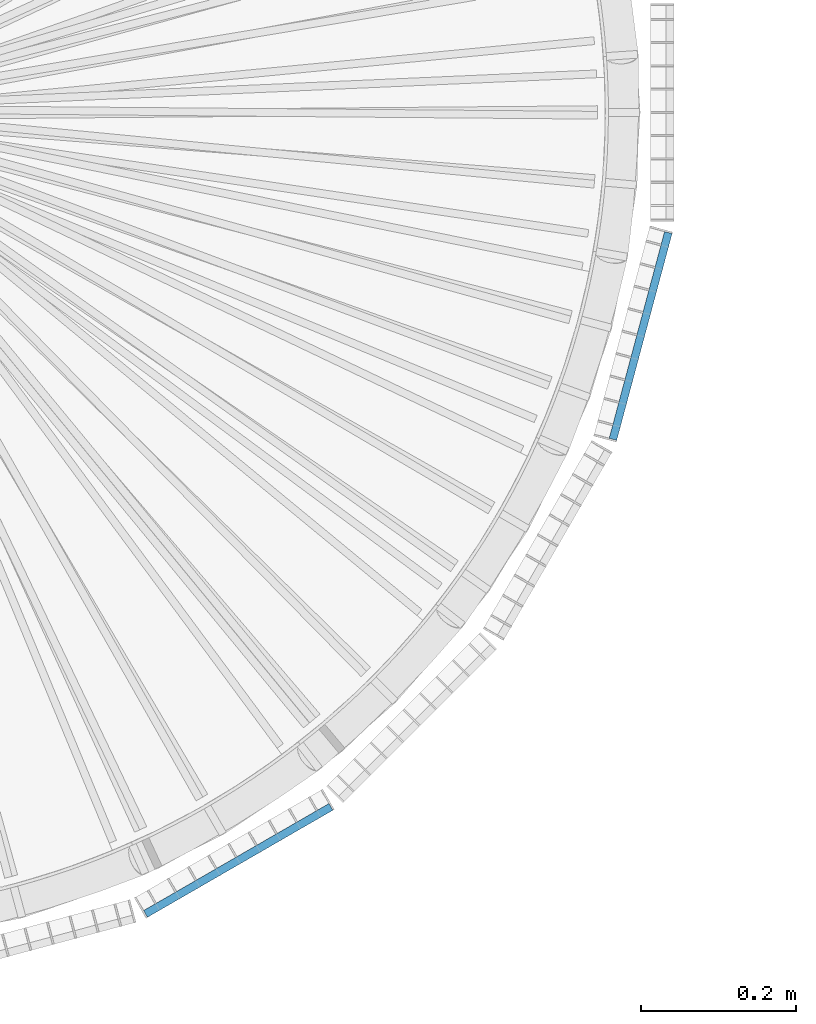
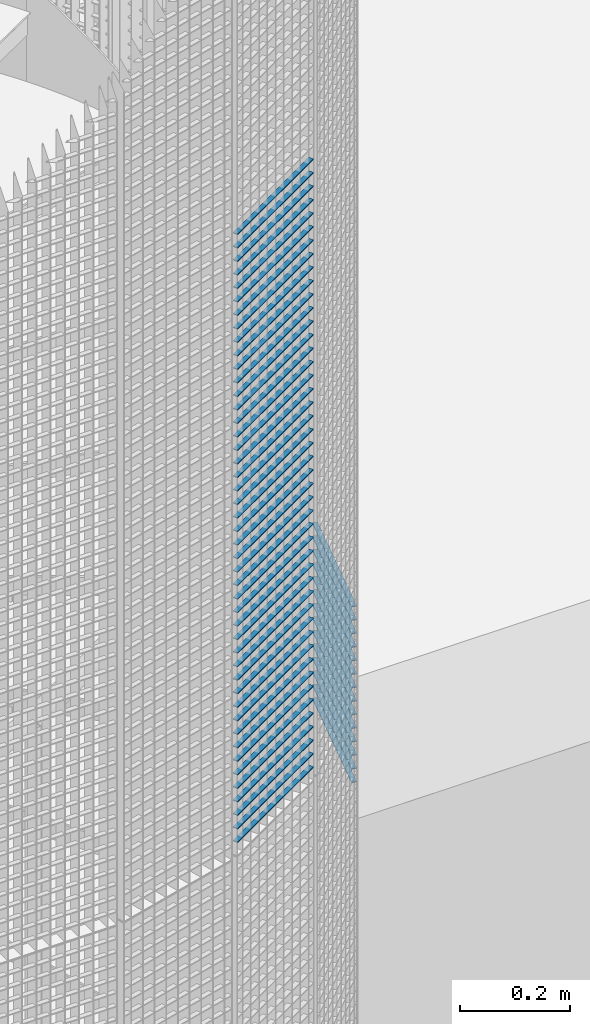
# One storey, part 239 of 1148: 60 beams, 2 elements without a shape of their own.
"""IFC2X3 building model written with IfcOpenShell, lengths in millimetres."""

from ifc_helpers import new_model, si_unit, frame, origin_with_axes, origin_2d_with_axis, place, context, subcontext, project, spatial, rectangle, extrude, material, type_object, element, aggregate, save


model = new_model("IFC2X3")

# Units and contexts
model_context = context("Model", 3, precision=1e-05, world=origin_with_axes())
body_context = subcontext(model_context, "Body", "Model", "MODEL_VIEW")
ifc_project = project(units=[si_unit("LENGTHUNIT", "METRE", prefix="MILLI"), si_unit("AREAUNIT", "SQUARE_METRE"), si_unit("VOLUMEUNIT", "CUBIC_METRE"), si_unit("MASSUNIT", "GRAM", prefix="KILO"), si_unit("TIMEUNIT", "SECOND"), si_unit("PLANEANGLEUNIT", "RADIAN"), si_unit("SOLIDANGLEUNIT", "STERADIAN"), si_unit("THERMODYNAMICTEMPERATUREUNIT", "DEGREE_CELSIUS"), si_unit("LUMINOUSINTENSITYUNIT", "LUMEN")], contexts=[model_context])

# Site, building, storey
site_placement = place(None, origin_with_axes())
site = spatial("IfcSite", under=ifc_project, at=site_placement, Name="Undefined", CompositionType="ELEMENT")
building_placement = place(site_placement, origin_with_axes())
building = spatial("IfcBuilding", under=site, at=building_placement, Name="Undefined", CompositionType="ELEMENT")
storey_placement = place(building_placement, origin_with_axes())
storey = spatial("IfcBuildingStorey", under=building, at=storey_placement, Name="Undefined", CompositionType="ELEMENT", Elevation=0.0)

# Assembly, beams
assembly_1_placement = place(storey_placement, origin_with_axes())
assembly_1 = element("IfcElementAssembly", 1, at=assembly_1_placement, inside=storey, Name="BORDURE", AssemblyPlace="NOTDEFINED", PredefinedType="NOTDEFINED")
ifc_material = material(Name="STEEL/S235JR")
beam_type = type_object("IfcBeamType", Name="PL2*10", PredefinedType="NOTDEFINED")
beam_1_placement = place(assembly_1_placement, frame((437.231955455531, -1033.29996828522, 10380.0), z_axis=(0.499999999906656, -0.866025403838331, 0.0), x_axis=(0.866025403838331, 0.499999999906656, 0.0)))
beam_1 = element("IfcBeam", 2, at=beam_1_placement, type_object=beam_type, material=ifc_material, Name="ENTRETOISE", context=body_context, shape_type="SweptSolid", body=[
    extrude(rectangle(XDim=2.0, YDim=10.0, at=origin_2d_with_axis()), frame((275.999999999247, 9.09494701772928e-13, 1.53210777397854e-14), z_axis=(-1.0, 0.0, 0.0), x_axis=(0.0, -1.0, 0.0)), (0.0, 0.0, 1.0), 276.0),
])
beam_2_placement = place(assembly_1_placement, frame((437.231955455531, -1033.29996828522, 10350.0), z_axis=(0.499999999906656, -0.866025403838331, 0.0), x_axis=(0.866025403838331, 0.499999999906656, 0.0)))
beam_2 = element("IfcBeam", 3, at=beam_2_placement, type_object=beam_type, material=ifc_material, Name="ENTRETOISE", context=body_context, shape_type="SweptSolid", body=[
    extrude(rectangle(XDim=2.0, YDim=10.0, at=origin_2d_with_axis()), frame((275.999999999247, 9.09494701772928e-13, 1.53210777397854e-14), z_axis=(-1.0, 0.0, 0.0), x_axis=(0.0, -1.0, 0.0)), (0.0, 0.0, 1.0), 276.0),
])
beam_3_placement = place(assembly_1_placement, frame((437.231955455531, -1033.29996828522, 10320.0), z_axis=(0.499999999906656, -0.866025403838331, 0.0), x_axis=(0.866025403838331, 0.499999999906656, 0.0)))
beam_3 = element("IfcBeam", 4, at=beam_3_placement, type_object=beam_type, material=ifc_material, Name="ENTRETOISE", context=body_context, shape_type="SweptSolid", body=[
    extrude(rectangle(XDim=2.0, YDim=10.0, at=origin_2d_with_axis()), frame((275.999999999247, 9.09494701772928e-13, 1.53210777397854e-14), z_axis=(-1.0, 0.0, 0.0), x_axis=(0.0, -1.0, 0.0)), (0.0, 0.0, 1.0), 276.0),
])
beam_4_placement = place(assembly_1_placement, frame((437.231955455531, -1033.29996828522, 10290.0), z_axis=(0.499999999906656, -0.866025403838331, 0.0), x_axis=(0.866025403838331, 0.499999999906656, 0.0)))
beam_4 = element("IfcBeam", 5, at=beam_4_placement, type_object=beam_type, material=ifc_material, Name="ENTRETOISE", context=body_context, shape_type="SweptSolid", body=[
    extrude(rectangle(XDim=2.0, YDim=10.0, at=origin_2d_with_axis()), frame((275.999999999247, 9.09494701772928e-13, 1.53210777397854e-14), z_axis=(-1.0, 0.0, 0.0), x_axis=(0.0, -1.0, 0.0)), (0.0, 0.0, 1.0), 276.0),
])
beam_5_placement = place(assembly_1_placement, frame((437.231955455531, -1033.29996828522, 10260.0), z_axis=(0.499999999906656, -0.866025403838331, 0.0), x_axis=(0.866025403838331, 0.499999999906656, 0.0)))
beam_5 = element("IfcBeam", 6, at=beam_5_placement, type_object=beam_type, material=ifc_material, Name="ENTRETOISE", context=body_context, shape_type="SweptSolid", body=[
    extrude(rectangle(XDim=2.0, YDim=10.0, at=origin_2d_with_axis()), frame((275.999999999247, 9.09494701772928e-13, 1.53210777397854e-14), z_axis=(-1.0, 0.0, 0.0), x_axis=(0.0, -1.0, 0.0)), (0.0, 0.0, 1.0), 276.0),
])
beam_6_placement = place(assembly_1_placement, frame((437.231955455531, -1033.29996828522, 10230.0), z_axis=(0.499999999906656, -0.866025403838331, 0.0), x_axis=(0.866025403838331, 0.499999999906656, 0.0)))
beam_6 = element("IfcBeam", 7, at=beam_6_placement, type_object=beam_type, material=ifc_material, Name="ENTRETOISE", context=body_context, shape_type="SweptSolid", body=[
    extrude(rectangle(XDim=2.0, YDim=10.0, at=origin_2d_with_axis()), frame((275.999999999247, 9.09494701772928e-13, 1.53210777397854e-14), z_axis=(-1.0, 0.0, 0.0), x_axis=(0.0, -1.0, 0.0)), (0.0, 0.0, 1.0), 276.0),
])
beam_7_placement = place(assembly_1_placement, frame((437.231955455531, -1033.29996828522, 10200.0), z_axis=(0.499999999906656, -0.866025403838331, 0.0), x_axis=(0.866025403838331, 0.499999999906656, 0.0)))
beam_7 = element("IfcBeam", 8, at=beam_7_placement, type_object=beam_type, material=ifc_material, Name="ENTRETOISE", context=body_context, shape_type="SweptSolid", body=[
    extrude(rectangle(XDim=2.0, YDim=10.0, at=origin_2d_with_axis()), frame((275.999999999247, 9.09494701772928e-13, 1.53210777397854e-14), z_axis=(-1.0, 0.0, 0.0), x_axis=(0.0, -1.0, 0.0)), (0.0, 0.0, 1.0), 276.0),
])
beam_8_placement = place(assembly_1_placement, frame((437.231955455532, -1033.29996828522, 10170.0), z_axis=(0.499999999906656, -0.866025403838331, 0.0), x_axis=(0.866025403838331, 0.499999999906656, 0.0)))
beam_8 = element("IfcBeam", 9, at=beam_8_placement, type_object=beam_type, material=ifc_material, Name="ENTRETOISE", context=body_context, shape_type="SweptSolid", body=[
    extrude(rectangle(XDim=2.0, YDim=10.0, at=origin_2d_with_axis()), frame((275.999999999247, 9.09494701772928e-13, 1.53210777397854e-14), z_axis=(-1.0, 0.0, 0.0), x_axis=(0.0, -1.0, 0.0)), (0.0, 0.0, 1.0), 276.0),
])
beam_9_placement = place(assembly_1_placement, frame((437.231955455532, -1033.29996828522, 10140.0), z_axis=(0.499999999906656, -0.866025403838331, 0.0), x_axis=(0.866025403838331, 0.499999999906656, 0.0)))
beam_9 = element("IfcBeam", 10, at=beam_9_placement, type_object=beam_type, material=ifc_material, Name="ENTRETOISE", context=body_context, shape_type="SweptSolid", body=[
    extrude(rectangle(XDim=2.0, YDim=10.0, at=origin_2d_with_axis()), frame((275.999999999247, 9.09494701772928e-13, 1.53210777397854e-14), z_axis=(-1.0, 0.0, 0.0), x_axis=(0.0, -1.0, 0.0)), (0.0, 0.0, 1.0), 276.0),
])
beam_10_placement = place(assembly_1_placement, frame((437.231955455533, -1033.29996828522, 9720.0), z_axis=(0.499999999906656, -0.866025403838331, 0.0), x_axis=(0.866025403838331, 0.499999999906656, 0.0)))
beam_10 = element("IfcBeam", 11, at=beam_10_placement, type_object=beam_type, material=ifc_material, Name="ENTRETOISE", context=body_context, shape_type="SweptSolid", body=[
    extrude(rectangle(XDim=2.0, YDim=10.0, at=origin_2d_with_axis()), frame((275.999999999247, 9.09494701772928e-13, 1.53210777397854e-14), z_axis=(-1.0, 0.0, 0.0), x_axis=(0.0, -1.0, 0.0)), (0.0, 0.0, 1.0), 276.0),
])
beam_11_placement = place(assembly_1_placement, frame((437.231955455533, -1033.29996828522, 9690.0), z_axis=(0.499999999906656, -0.866025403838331, 0.0), x_axis=(0.866025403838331, 0.499999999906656, 0.0)))
beam_11 = element("IfcBeam", 12, at=beam_11_placement, type_object=beam_type, material=ifc_material, Name="ENTRETOISE", context=body_context, shape_type="SweptSolid", body=[
    extrude(rectangle(XDim=2.0, YDim=10.0, at=origin_2d_with_axis()), frame((275.999999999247, 9.09494701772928e-13, 1.53210777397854e-14), z_axis=(-1.0, 0.0, 0.0), x_axis=(0.0, -1.0, 0.0)), (0.0, 0.0, 1.0), 276.0),
])
beam_12_placement = place(assembly_1_placement, frame((437.231955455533, -1033.29996828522, 9750.0), z_axis=(0.499999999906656, -0.866025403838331, 0.0), x_axis=(0.866025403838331, 0.499999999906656, 0.0)))
beam_12 = element("IfcBeam", 13, at=beam_12_placement, type_object=beam_type, material=ifc_material, Name="ENTRETOISE", context=body_context, shape_type="SweptSolid", body=[
    extrude(rectangle(XDim=2.0, YDim=10.0, at=origin_2d_with_axis()), frame((275.999999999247, 9.09494701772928e-13, 1.53210777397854e-14), z_axis=(-1.0, 0.0, 0.0), x_axis=(0.0, -1.0, 0.0)), (0.0, 0.0, 1.0), 276.0),
])
beam_13_placement = place(assembly_1_placement, frame((437.231955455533, -1033.29996828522, 9660.0), z_axis=(0.499999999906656, -0.866025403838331, 0.0), x_axis=(0.866025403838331, 0.499999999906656, 0.0)))
beam_13 = element("IfcBeam", 14, at=beam_13_placement, type_object=beam_type, material=ifc_material, Name="ENTRETOISE", context=body_context, shape_type="SweptSolid", body=[
    extrude(rectangle(XDim=2.0, YDim=10.0, at=origin_2d_with_axis()), frame((275.999999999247, 9.09494701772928e-13, 1.53210777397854e-14), z_axis=(-1.0, 0.0, 0.0), x_axis=(0.0, -1.0, 0.0)), (0.0, 0.0, 1.0), 276.0),
])
beam_14_placement = place(assembly_1_placement, frame((437.231955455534, -1033.29996828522, 9630.0), z_axis=(0.499999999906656, -0.866025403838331, 0.0), x_axis=(0.866025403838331, 0.499999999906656, 0.0)))
beam_14 = element("IfcBeam", 15, at=beam_14_placement, type_object=beam_type, material=ifc_material, Name="ENTRETOISE", context=body_context, shape_type="SweptSolid", body=[
    extrude(rectangle(XDim=2.0, YDim=10.0, at=origin_2d_with_axis()), frame((275.999999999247, 9.09494701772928e-13, 1.53210777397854e-14), z_axis=(-1.0, 0.0, 0.0), x_axis=(0.0, -1.0, 0.0)), (0.0, 0.0, 1.0), 276.0),
])
beam_15_placement = place(assembly_1_placement, frame((437.231955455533, -1033.29996828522, 9780.0), z_axis=(0.499999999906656, -0.866025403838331, 0.0), x_axis=(0.866025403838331, 0.499999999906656, 0.0)))
beam_15 = element("IfcBeam", 16, at=beam_15_placement, type_object=beam_type, material=ifc_material, Name="ENTRETOISE", context=body_context, shape_type="SweptSolid", body=[
    extrude(rectangle(XDim=2.0, YDim=10.0, at=origin_2d_with_axis()), frame((275.999999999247, 9.09494701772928e-13, 1.53210777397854e-14), z_axis=(-1.0, 0.0, 0.0), x_axis=(0.0, -1.0, 0.0)), (0.0, 0.0, 1.0), 276.0),
])
beam_16_placement = place(assembly_1_placement, frame((437.231955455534, -1033.29996828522, 9600.0), z_axis=(0.499999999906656, -0.866025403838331, 0.0), x_axis=(0.866025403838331, 0.499999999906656, 0.0)))
beam_16 = element("IfcBeam", 17, at=beam_16_placement, type_object=beam_type, material=ifc_material, Name="ENTRETOISE", context=body_context, shape_type="SweptSolid", body=[
    extrude(rectangle(XDim=2.0, YDim=10.0, at=origin_2d_with_axis()), frame((275.999999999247, 9.09494701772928e-13, 1.53210777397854e-14), z_axis=(-1.0, 0.0, 0.0), x_axis=(0.0, -1.0, 0.0)), (0.0, 0.0, 1.0), 276.0),
])
beam_17_placement = place(assembly_1_placement, frame((437.231955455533, -1033.29996828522, 9810.0), z_axis=(0.499999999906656, -0.866025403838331, 0.0), x_axis=(0.866025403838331, 0.499999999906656, 0.0)))
beam_17 = element("IfcBeam", 18, at=beam_17_placement, type_object=beam_type, material=ifc_material, Name="ENTRETOISE", context=body_context, shape_type="SweptSolid", body=[
    extrude(rectangle(XDim=2.0, YDim=10.0, at=origin_2d_with_axis()), frame((275.999999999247, 9.09494701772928e-13, 1.53210777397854e-14), z_axis=(-1.0, 0.0, 0.0), x_axis=(0.0, -1.0, 0.0)), (0.0, 0.0, 1.0), 276.0),
])
beam_18_placement = place(assembly_1_placement, frame((437.231955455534, -1033.29996828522, 9570.0), z_axis=(0.499999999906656, -0.866025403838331, 0.0), x_axis=(0.866025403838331, 0.499999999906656, 0.0)))
beam_18 = element("IfcBeam", 19, at=beam_18_placement, type_object=beam_type, material=ifc_material, Name="ENTRETOISE", context=body_context, shape_type="SweptSolid", body=[
    extrude(rectangle(XDim=2.0, YDim=10.0, at=origin_2d_with_axis()), frame((275.999999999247, 9.09494701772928e-13, 1.53210777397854e-14), z_axis=(-1.0, 0.0, 0.0), x_axis=(0.0, -1.0, 0.0)), (0.0, 0.0, 1.0), 276.0),
])
beam_19_placement = place(assembly_1_placement, frame((437.231955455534, -1033.29996828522, 9540.0), z_axis=(0.499999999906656, -0.866025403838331, 0.0), x_axis=(0.866025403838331, 0.499999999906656, 0.0)))
beam_19 = element("IfcBeam", 20, at=beam_19_placement, type_object=beam_type, material=ifc_material, Name="ENTRETOISE", context=body_context, shape_type="SweptSolid", body=[
    extrude(rectangle(XDim=2.0, YDim=10.0, at=origin_2d_with_axis()), frame((275.999999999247, 9.09494701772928e-13, 1.53210777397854e-14), z_axis=(-1.0, 0.0, 0.0), x_axis=(0.0, -1.0, 0.0)), (0.0, 0.0, 1.0), 276.0),
])
beam_20_placement = place(assembly_1_placement, frame((437.231955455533, -1033.29996828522, 9840.0), z_axis=(0.499999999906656, -0.866025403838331, 0.0), x_axis=(0.866025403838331, 0.499999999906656, 0.0)))
beam_20 = element("IfcBeam", 21, at=beam_20_placement, type_object=beam_type, material=ifc_material, Name="ENTRETOISE", context=body_context, shape_type="SweptSolid", body=[
    extrude(rectangle(XDim=2.0, YDim=10.0, at=origin_2d_with_axis()), frame((275.999999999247, 9.09494701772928e-13, 1.53210777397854e-14), z_axis=(-1.0, 0.0, 0.0), x_axis=(0.0, -1.0, 0.0)), (0.0, 0.0, 1.0), 276.0),
])
beam_21_placement = place(assembly_1_placement, frame((437.231955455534, -1033.29996828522, 9510.0), z_axis=(0.499999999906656, -0.866025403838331, 0.0), x_axis=(0.866025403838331, 0.499999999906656, 0.0)))
beam_21 = element("IfcBeam", 22, at=beam_21_placement, type_object=beam_type, material=ifc_material, Name="ENTRETOISE", context=body_context, shape_type="SweptSolid", body=[
    extrude(rectangle(XDim=2.0, YDim=10.0, at=origin_2d_with_axis()), frame((275.999999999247, 9.09494701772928e-13, 1.53210777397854e-14), z_axis=(-1.0, 0.0, 0.0), x_axis=(0.0, -1.0, 0.0)), (0.0, 0.0, 1.0), 276.0),
])
beam_22_placement = place(assembly_1_placement, frame((437.231955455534, -1033.29996828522, 9480.0), z_axis=(0.499999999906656, -0.866025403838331, 0.0), x_axis=(0.866025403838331, 0.499999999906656, 0.0)))
beam_22 = element("IfcBeam", 23, at=beam_22_placement, type_object=beam_type, material=ifc_material, Name="ENTRETOISE", context=body_context, shape_type="SweptSolid", body=[
    extrude(rectangle(XDim=2.0, YDim=10.0, at=origin_2d_with_axis()), frame((275.999999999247, 9.09494701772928e-13, 1.53210777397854e-14), z_axis=(-1.0, 0.0, 0.0), x_axis=(0.0, -1.0, 0.0)), (0.0, 0.0, 1.0), 276.0),
])
beam_23_placement = place(assembly_1_placement, frame((437.231955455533, -1033.29996828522, 9870.0), z_axis=(0.499999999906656, -0.866025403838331, 0.0), x_axis=(0.866025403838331, 0.499999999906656, 0.0)))
beam_23 = element("IfcBeam", 24, at=beam_23_placement, type_object=beam_type, material=ifc_material, Name="ENTRETOISE", context=body_context, shape_type="SweptSolid", body=[
    extrude(rectangle(XDim=2.0, YDim=10.0, at=origin_2d_with_axis()), frame((275.999999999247, 9.09494701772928e-13, 1.53210777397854e-14), z_axis=(-1.0, 0.0, 0.0), x_axis=(0.0, -1.0, 0.0)), (0.0, 0.0, 1.0), 276.0),
])
beam_24_placement = place(assembly_1_placement, frame((437.231955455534, -1033.29996828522, 9450.0), z_axis=(0.499999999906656, -0.866025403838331, 0.0), x_axis=(0.866025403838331, 0.499999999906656, 0.0)))
beam_24 = element("IfcBeam", 25, at=beam_24_placement, type_object=beam_type, material=ifc_material, Name="ENTRETOISE", context=body_context, shape_type="SweptSolid", body=[
    extrude(rectangle(XDim=2.0, YDim=10.0, at=origin_2d_with_axis()), frame((275.999999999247, 9.09494701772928e-13, 1.53210777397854e-14), z_axis=(-1.0, 0.0, 0.0), x_axis=(0.0, -1.0, 0.0)), (0.0, 0.0, 1.0), 276.0),
])
beam_25_placement = place(assembly_1_placement, frame((437.231955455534, -1033.29996828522, 9420.0), z_axis=(0.499999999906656, -0.866025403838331, 0.0), x_axis=(0.866025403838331, 0.499999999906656, 0.0)))
beam_25 = element("IfcBeam", 26, at=beam_25_placement, type_object=beam_type, material=ifc_material, Name="ENTRETOISE", context=body_context, shape_type="SweptSolid", body=[
    extrude(rectangle(XDim=2.0, YDim=10.0, at=origin_2d_with_axis()), frame((275.999999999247, 9.09494701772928e-13, 1.53210777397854e-14), z_axis=(-1.0, 0.0, 0.0), x_axis=(0.0, -1.0, 0.0)), (0.0, 0.0, 1.0), 276.0),
])
beam_26_placement = place(assembly_1_placement, frame((437.231955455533, -1033.29996828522, 9900.0), z_axis=(0.499999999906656, -0.866025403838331, 0.0), x_axis=(0.866025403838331, 0.499999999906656, 0.0)))
beam_26 = element("IfcBeam", 27, at=beam_26_placement, type_object=beam_type, material=ifc_material, Name="ENTRETOISE", context=body_context, shape_type="SweptSolid", body=[
    extrude(rectangle(XDim=2.0, YDim=10.0, at=origin_2d_with_axis()), frame((275.999999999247, 9.09494701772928e-13, 1.53210777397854e-14), z_axis=(-1.0, 0.0, 0.0), x_axis=(0.0, -1.0, 0.0)), (0.0, 0.0, 1.0), 276.0),
])
beam_27_placement = place(assembly_1_placement, frame((437.231955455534, -1033.29996828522, 9390.0), z_axis=(0.499999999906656, -0.866025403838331, 0.0), x_axis=(0.866025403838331, 0.499999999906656, 0.0)))
beam_27 = element("IfcBeam", 28, at=beam_27_placement, type_object=beam_type, material=ifc_material, Name="ENTRETOISE", context=body_context, shape_type="SweptSolid", body=[
    extrude(rectangle(XDim=2.0, YDim=10.0, at=origin_2d_with_axis()), frame((275.999999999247, 9.09494701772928e-13, 1.53210777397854e-14), z_axis=(-1.0, 0.0, 0.0), x_axis=(0.0, -1.0, 0.0)), (0.0, 0.0, 1.0), 276.0),
])
beam_28_placement = place(assembly_1_placement, frame((437.231955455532, -1033.29996828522, 9930.0), z_axis=(0.499999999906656, -0.866025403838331, 0.0), x_axis=(0.866025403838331, 0.499999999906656, 0.0)))
beam_28 = element("IfcBeam", 29, at=beam_28_placement, type_object=beam_type, material=ifc_material, Name="ENTRETOISE", context=body_context, shape_type="SweptSolid", body=[
    extrude(rectangle(XDim=2.0, YDim=10.0, at=origin_2d_with_axis()), frame((275.999999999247, 9.09494701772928e-13, 1.53210777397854e-14), z_axis=(-1.0, 0.0, 0.0), x_axis=(0.0, -1.0, 0.0)), (0.0, 0.0, 1.0), 276.0),
])
beam_29_placement = place(assembly_1_placement, frame((437.231955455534, -1033.29996828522, 9360.0), z_axis=(0.499999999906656, -0.866025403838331, 0.0), x_axis=(0.866025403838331, 0.499999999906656, 0.0)))
beam_29 = element("IfcBeam", 30, at=beam_29_placement, type_object=beam_type, material=ifc_material, Name="ENTRETOISE", context=body_context, shape_type="SweptSolid", body=[
    extrude(rectangle(XDim=2.0, YDim=10.0, at=origin_2d_with_axis()), frame((275.999999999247, 9.09494701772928e-13, 1.53210777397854e-14), z_axis=(-1.0, 0.0, 0.0), x_axis=(0.0, -1.0, 0.0)), (0.0, 0.0, 1.0), 276.0),
])
beam_30_placement = place(assembly_1_placement, frame((437.231955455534, -1033.29996828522, 9330.0), z_axis=(0.499999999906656, -0.866025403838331, 0.0), x_axis=(0.866025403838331, 0.499999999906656, 0.0)))
beam_30 = element("IfcBeam", 31, at=beam_30_placement, type_object=beam_type, material=ifc_material, Name="ENTRETOISE", context=body_context, shape_type="SweptSolid", body=[
    extrude(rectangle(XDim=2.0, YDim=10.0, at=origin_2d_with_axis()), frame((275.999999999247, 9.09494701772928e-13, 1.53210777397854e-14), z_axis=(-1.0, 0.0, 0.0), x_axis=(0.0, -1.0, 0.0)), (0.0, 0.0, 1.0), 276.0),
])
beam_31_placement = place(assembly_1_placement, frame((437.231955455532, -1033.29996828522, 9960.0), z_axis=(0.499999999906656, -0.866025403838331, 0.0), x_axis=(0.866025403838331, 0.499999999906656, 0.0)))
beam_31 = element("IfcBeam", 32, at=beam_31_placement, type_object=beam_type, material=ifc_material, Name="ENTRETOISE", context=body_context, shape_type="SweptSolid", body=[
    extrude(rectangle(XDim=2.0, YDim=10.0, at=origin_2d_with_axis()), frame((275.999999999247, 9.09494701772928e-13, 1.53210777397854e-14), z_axis=(-1.0, 0.0, 0.0), x_axis=(0.0, -1.0, 0.0)), (0.0, 0.0, 1.0), 276.0),
])
beam_32_placement = place(assembly_1_placement, frame((437.231955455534, -1033.29996828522, 9300.0), z_axis=(0.499999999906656, -0.866025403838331, 0.0), x_axis=(0.866025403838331, 0.499999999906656, 0.0)))
beam_32 = element("IfcBeam", 33, at=beam_32_placement, type_object=beam_type, material=ifc_material, Name="ENTRETOISE", context=body_context, shape_type="SweptSolid", body=[
    extrude(rectangle(XDim=2.0, YDim=10.0, at=origin_2d_with_axis()), frame((275.999999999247, 9.09494701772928e-13, 1.53210777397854e-14), z_axis=(-1.0, 0.0, 0.0), x_axis=(0.0, -1.0, 0.0)), (0.0, 0.0, 1.0), 276.0),
])
beam_33_placement = place(assembly_1_placement, frame((437.231955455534, -1033.29996828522, 9270.0), z_axis=(0.499999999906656, -0.866025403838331, 0.0), x_axis=(0.866025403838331, 0.499999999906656, 0.0)))
beam_33 = element("IfcBeam", 34, at=beam_33_placement, type_object=beam_type, material=ifc_material, Name="ENTRETOISE", context=body_context, shape_type="SweptSolid", body=[
    extrude(rectangle(XDim=2.0, YDim=10.0, at=origin_2d_with_axis()), frame((275.999999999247, 9.09494701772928e-13, 1.53210777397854e-14), z_axis=(-1.0, 0.0, 0.0), x_axis=(0.0, -1.0, 0.0)), (0.0, 0.0, 1.0), 276.0),
])
beam_34_placement = place(assembly_1_placement, frame((437.231955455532, -1033.29996828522, 9990.0), z_axis=(0.499999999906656, -0.866025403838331, 0.0), x_axis=(0.866025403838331, 0.499999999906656, 0.0)))
beam_34 = element("IfcBeam", 35, at=beam_34_placement, type_object=beam_type, material=ifc_material, Name="ENTRETOISE", context=body_context, shape_type="SweptSolid", body=[
    extrude(rectangle(XDim=2.0, YDim=10.0, at=origin_2d_with_axis()), frame((275.999999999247, 9.09494701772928e-13, 1.53210777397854e-14), z_axis=(-1.0, 0.0, 0.0), x_axis=(0.0, -1.0, 0.0)), (0.0, 0.0, 1.0), 276.0),
])
beam_35_placement = place(assembly_1_placement, frame((437.231955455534, -1033.29996828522, 9240.0), z_axis=(0.499999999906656, -0.866025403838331, 0.0), x_axis=(0.866025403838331, 0.499999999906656, 0.0)))
beam_35 = element("IfcBeam", 36, at=beam_35_placement, type_object=beam_type, material=ifc_material, Name="ENTRETOISE", context=body_context, shape_type="SweptSolid", body=[
    extrude(rectangle(XDim=2.0, YDim=10.0, at=origin_2d_with_axis()), frame((275.999999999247, 9.09494701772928e-13, 1.53210777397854e-14), z_axis=(-1.0, 0.0, 0.0), x_axis=(0.0, -1.0, 0.0)), (0.0, 0.0, 1.0), 276.0),
])
beam_36_placement = place(assembly_1_placement, frame((437.231955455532, -1033.29996828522, 10020.0), z_axis=(0.499999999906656, -0.866025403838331, 0.0), x_axis=(0.866025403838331, 0.499999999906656, 0.0)))
beam_36 = element("IfcBeam", 37, at=beam_36_placement, type_object=beam_type, material=ifc_material, Name="ENTRETOISE", context=body_context, shape_type="SweptSolid", body=[
    extrude(rectangle(XDim=2.0, YDim=10.0, at=origin_2d_with_axis()), frame((275.999999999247, 9.09494701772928e-13, 1.53210777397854e-14), z_axis=(-1.0, 0.0, 0.0), x_axis=(0.0, -1.0, 0.0)), (0.0, 0.0, 1.0), 276.0),
])
beam_37_placement = place(assembly_1_placement, frame((437.231955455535, -1033.29996828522, 9210.0), z_axis=(0.499999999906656, -0.866025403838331, 0.0), x_axis=(0.866025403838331, 0.499999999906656, 0.0)))
beam_37 = element("IfcBeam", 38, at=beam_37_placement, type_object=beam_type, material=ifc_material, Name="ENTRETOISE", context=body_context, shape_type="SweptSolid", body=[
    extrude(rectangle(XDim=2.0, YDim=10.0, at=origin_2d_with_axis()), frame((275.999999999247, 9.09494701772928e-13, 1.53210777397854e-14), z_axis=(-1.0, 0.0, 0.0), x_axis=(0.0, -1.0, 0.0)), (0.0, 0.0, 1.0), 276.0),
])
beam_38_placement = place(assembly_1_placement, frame((437.231955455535, -1033.29996828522, 9180.0), z_axis=(0.499999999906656, -0.866025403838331, 0.0), x_axis=(0.866025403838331, 0.499999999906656, 0.0)))
beam_38 = element("IfcBeam", 39, at=beam_38_placement, type_object=beam_type, material=ifc_material, Name="ENTRETOISE", context=body_context, shape_type="SweptSolid", body=[
    extrude(rectangle(XDim=2.0, YDim=10.0, at=origin_2d_with_axis()), frame((275.999999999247, 9.09494701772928e-13, 1.53210777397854e-14), z_axis=(-1.0, 0.0, 0.0), x_axis=(0.0, -1.0, 0.0)), (0.0, 0.0, 1.0), 276.0),
])
beam_39_placement = place(assembly_1_placement, frame((437.231955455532, -1033.29996828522, 10050.0), z_axis=(0.499999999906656, -0.866025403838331, 0.0), x_axis=(0.866025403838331, 0.499999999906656, 0.0)))
beam_39 = element("IfcBeam", 40, at=beam_39_placement, type_object=beam_type, material=ifc_material, Name="ENTRETOISE", context=body_context, shape_type="SweptSolid", body=[
    extrude(rectangle(XDim=2.0, YDim=10.0, at=origin_2d_with_axis()), frame((275.999999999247, 9.09494701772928e-13, 1.53210777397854e-14), z_axis=(-1.0, 0.0, 0.0), x_axis=(0.0, -1.0, 0.0)), (0.0, 0.0, 1.0), 276.0),
])
beam_40_placement = place(assembly_1_placement, frame((437.231955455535, -1033.29996828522, 9150.0), z_axis=(0.499999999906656, -0.866025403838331, 0.0), x_axis=(0.866025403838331, 0.499999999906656, 0.0)))
beam_40 = element("IfcBeam", 41, at=beam_40_placement, type_object=beam_type, material=ifc_material, Name="ENTRETOISE", context=body_context, shape_type="SweptSolid", body=[
    extrude(rectangle(XDim=2.0, YDim=10.0, at=origin_2d_with_axis()), frame((275.999999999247, 9.09494701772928e-13, 1.53210777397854e-14), z_axis=(-1.0, 0.0, 0.0), x_axis=(0.0, -1.0, 0.0)), (0.0, 0.0, 1.0), 276.0),
])
beam_41_placement = place(assembly_1_placement, frame((437.231955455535, -1033.29996828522, 9120.0), z_axis=(0.499999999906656, -0.866025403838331, 0.0), x_axis=(0.866025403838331, 0.499999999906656, 0.0)))
beam_41 = element("IfcBeam", 42, at=beam_41_placement, type_object=beam_type, material=ifc_material, Name="ENTRETOISE", context=body_context, shape_type="SweptSolid", body=[
    extrude(rectangle(XDim=2.0, YDim=10.0, at=origin_2d_with_axis()), frame((275.999999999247, 9.09494701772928e-13, 1.53210777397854e-14), z_axis=(-1.0, 0.0, 0.0), x_axis=(0.0, -1.0, 0.0)), (0.0, 0.0, 1.0), 276.0),
])
beam_42_placement = place(assembly_1_placement, frame((437.231955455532, -1033.29996828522, 10080.0), z_axis=(0.499999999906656, -0.866025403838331, 0.0), x_axis=(0.866025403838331, 0.499999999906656, 0.0)))
beam_42 = element("IfcBeam", 43, at=beam_42_placement, type_object=beam_type, material=ifc_material, Name="ENTRETOISE", context=body_context, shape_type="SweptSolid", body=[
    extrude(rectangle(XDim=2.0, YDim=10.0, at=origin_2d_with_axis()), frame((275.999999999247, 9.09494701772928e-13, 1.53210777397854e-14), z_axis=(-1.0, 0.0, 0.0), x_axis=(0.0, -1.0, 0.0)), (0.0, 0.0, 1.0), 276.0),
])
beam_43_placement = place(assembly_1_placement, frame((437.231955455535, -1033.29996828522, 9090.0), z_axis=(0.499999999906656, -0.866025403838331, 0.0), x_axis=(0.866025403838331, 0.499999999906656, 0.0)))
beam_43 = element("IfcBeam", 44, at=beam_43_placement, type_object=beam_type, material=ifc_material, Name="ENTRETOISE", context=body_context, shape_type="SweptSolid", body=[
    extrude(rectangle(XDim=2.0, YDim=10.0, at=origin_2d_with_axis()), frame((275.999999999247, 9.09494701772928e-13, 1.53210777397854e-14), z_axis=(-1.0, 0.0, 0.0), x_axis=(0.0, -1.0, 0.0)), (0.0, 0.0, 1.0), 276.0),
])
beam_44_placement = place(assembly_1_placement, frame((437.231955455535, -1033.29996828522, 9060.0), z_axis=(0.499999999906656, -0.866025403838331, 0.0), x_axis=(0.866025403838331, 0.499999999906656, 0.0)))
beam_44 = element("IfcBeam", 45, at=beam_44_placement, type_object=beam_type, material=ifc_material, Name="ENTRETOISE", context=body_context, shape_type="SweptSolid", body=[
    extrude(rectangle(XDim=2.0, YDim=10.0, at=origin_2d_with_axis()), frame((275.999999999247, 9.09494701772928e-13, 1.53210777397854e-14), z_axis=(-1.0, 0.0, 0.0), x_axis=(0.0, -1.0, 0.0)), (0.0, 0.0, 1.0), 276.0),
])
beam_45_placement = place(assembly_1_placement, frame((437.231955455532, -1033.29996828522, 10110.0), z_axis=(0.499999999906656, -0.866025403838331, 0.0), x_axis=(0.866025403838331, 0.499999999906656, 0.0)))
beam_45 = element("IfcBeam", 46, at=beam_45_placement, type_object=beam_type, material=ifc_material, Name="ENTRETOISE", context=body_context, shape_type="SweptSolid", body=[
    extrude(rectangle(XDim=2.0, YDim=10.0, at=origin_2d_with_axis()), frame((275.999999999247, 9.09494701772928e-13, 1.53210777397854e-14), z_axis=(-1.0, 0.0, 0.0), x_axis=(0.0, -1.0, 0.0)), (0.0, 0.0, 1.0), 276.0),
])
beam_46_placement = place(assembly_1_placement, frame((437.231955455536, -1033.29996828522, 9030.0), z_axis=(0.499999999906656, -0.866025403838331, 0.0), x_axis=(0.866025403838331, 0.499999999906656, 0.0)))
beam_46 = element("IfcBeam", 47, at=beam_46_placement, type_object=beam_type, material=ifc_material, Name="ENTRETOISE", context=body_context, shape_type="SweptSolid", body=[
    extrude(rectangle(XDim=2.0, YDim=10.0, at=origin_2d_with_axis()), frame((275.999999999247, 9.09494701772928e-13, 1.53210777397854e-14), z_axis=(-1.0, 0.0, 0.0), x_axis=(0.0, -1.0, 0.0)), (0.0, 0.0, 1.0), 276.0),
])
aggregate(assembly_1, [beam_1, beam_2, beam_3, beam_4, beam_5, beam_6, beam_7, beam_8, beam_9, beam_10, beam_11, beam_12, beam_13, beam_14, beam_15, beam_16, beam_17, beam_18, beam_19, beam_20, beam_21, beam_22, beam_23, beam_24, beam_25, beam_26, beam_27, beam_28, beam_29, beam_30, beam_31, beam_32, beam_33, beam_34, beam_35, beam_36, beam_37, beam_38, beam_39, beam_40, beam_41, beam_42, beam_43, beam_44, beam_45, beam_46])

assembly_2_placement = place(storey_placement, origin_with_axes())
assembly_2 = element("IfcElementAssembly", 48, at=assembly_2_placement, inside=storey, Name="BORDURE", AssemblyPlace="NOTDEFINED", PredefinedType="NOTDEFINED")
beam_47_placement = place(assembly_2_placement, frame((1039.82309522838, -421.483733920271, 8970.0), z_axis=(0.965925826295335, -0.258819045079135, 0.0), x_axis=(0.258819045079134, 0.965925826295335, 0.0)))
beam_47 = element("IfcBeam", 49, at=beam_47_placement, type_object=beam_type, material=ifc_material, Name="ENTRETOISE", context=body_context, shape_type="SweptSolid", body=[
    extrude(rectangle(XDim=2.0, YDim=10.0, at=origin_2d_with_axis()), frame((275.999999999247, 9.09494701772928e-13, 1.53210777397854e-14), z_axis=(-1.0, 0.0, 0.0), x_axis=(0.0, -1.0, 0.0)), (0.0, 0.0, 1.0), 276.0),
])
beam_48_placement = place(assembly_2_placement, frame((1039.82309522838, -421.483733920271, 8940.0), z_axis=(0.965925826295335, -0.258819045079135, 0.0), x_axis=(0.258819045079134, 0.965925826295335, 0.0)))
beam_48 = element("IfcBeam", 50, at=beam_48_placement, type_object=beam_type, material=ifc_material, Name="ENTRETOISE", context=body_context, shape_type="SweptSolid", body=[
    extrude(rectangle(XDim=2.0, YDim=10.0, at=origin_2d_with_axis()), frame((275.999999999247, 9.09494701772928e-13, 1.53210777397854e-14), z_axis=(-1.0, 0.0, 0.0), x_axis=(0.0, -1.0, 0.0)), (0.0, 0.0, 1.0), 276.0),
])
beam_49_placement = place(assembly_2_placement, frame((1039.82309522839, -421.483733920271, 8910.0), z_axis=(0.965925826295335, -0.258819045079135, 0.0), x_axis=(0.258819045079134, 0.965925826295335, 0.0)))
beam_49 = element("IfcBeam", 51, at=beam_49_placement, type_object=beam_type, material=ifc_material, Name="ENTRETOISE", context=body_context, shape_type="SweptSolid", body=[
    extrude(rectangle(XDim=2.0, YDim=10.0, at=origin_2d_with_axis()), frame((275.999999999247, 9.09494701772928e-13, 1.53210777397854e-14), z_axis=(-1.0, 0.0, 0.0), x_axis=(0.0, -1.0, 0.0)), (0.0, 0.0, 1.0), 276.0),
])
beam_50_placement = place(assembly_2_placement, frame((1039.82309522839, -421.483733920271, 8880.0), z_axis=(0.965925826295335, -0.258819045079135, 0.0), x_axis=(0.258819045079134, 0.965925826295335, 0.0)))
beam_50 = element("IfcBeam", 52, at=beam_50_placement, type_object=beam_type, material=ifc_material, Name="ENTRETOISE", context=body_context, shape_type="SweptSolid", body=[
    extrude(rectangle(XDim=2.0, YDim=10.0, at=origin_2d_with_axis()), frame((275.999999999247, 9.09494701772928e-13, 1.53210777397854e-14), z_axis=(-1.0, 0.0, 0.0), x_axis=(0.0, -1.0, 0.0)), (0.0, 0.0, 1.0), 276.0),
])
beam_51_placement = place(assembly_2_placement, frame((1039.82309522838, -421.483733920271, 8850.0), z_axis=(0.965925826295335, -0.258819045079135, 0.0), x_axis=(0.258819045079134, 0.965925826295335, 0.0)))
beam_51 = element("IfcBeam", 53, at=beam_51_placement, type_object=beam_type, material=ifc_material, Name="ENTRETOISE", context=body_context, shape_type="SweptSolid", body=[
    extrude(rectangle(XDim=2.0, YDim=10.0, at=origin_2d_with_axis()), frame((275.999999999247, 9.09494701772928e-13, 1.53210777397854e-14), z_axis=(-1.0, 0.0, 0.0), x_axis=(0.0, -1.0, 0.0)), (0.0, 0.0, 1.0), 276.0),
])
beam_52_placement = place(assembly_2_placement, frame((1039.82309522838, -421.483733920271, 8820.0), z_axis=(0.965925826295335, -0.258819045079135, 0.0), x_axis=(0.258819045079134, 0.965925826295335, 0.0)))
beam_52 = element("IfcBeam", 54, at=beam_52_placement, type_object=beam_type, material=ifc_material, Name="ENTRETOISE", context=body_context, shape_type="SweptSolid", body=[
    extrude(rectangle(XDim=2.0, YDim=10.0, at=origin_2d_with_axis()), frame((275.999999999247, 9.09494701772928e-13, 1.53210777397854e-14), z_axis=(-1.0, 0.0, 0.0), x_axis=(0.0, -1.0, 0.0)), (0.0, 0.0, 1.0), 276.0),
])
beam_53_placement = place(assembly_2_placement, frame((1039.82309522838, -421.483733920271, 8790.0), z_axis=(0.965925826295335, -0.258819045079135, 0.0), x_axis=(0.258819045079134, 0.965925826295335, 0.0)))
beam_53 = element("IfcBeam", 55, at=beam_53_placement, type_object=beam_type, material=ifc_material, Name="ENTRETOISE", context=body_context, shape_type="SweptSolid", body=[
    extrude(rectangle(XDim=2.0, YDim=10.0, at=origin_2d_with_axis()), frame((275.999999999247, 9.09494701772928e-13, 1.53210777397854e-14), z_axis=(-1.0, 0.0, 0.0), x_axis=(0.0, -1.0, 0.0)), (0.0, 0.0, 1.0), 276.0),
])
beam_54_placement = place(assembly_2_placement, frame((1039.82309522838, -421.483733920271, 8760.0), z_axis=(0.965925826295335, -0.258819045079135, 0.0), x_axis=(0.258819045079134, 0.965925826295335, 0.0)))
beam_54 = element("IfcBeam", 56, at=beam_54_placement, type_object=beam_type, material=ifc_material, Name="ENTRETOISE", context=body_context, shape_type="SweptSolid", body=[
    extrude(rectangle(XDim=2.0, YDim=10.0, at=origin_2d_with_axis()), frame((275.999999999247, 9.09494701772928e-13, 1.53210777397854e-14), z_axis=(-1.0, 0.0, 0.0), x_axis=(0.0, -1.0, 0.0)), (0.0, 0.0, 1.0), 276.0),
])
beam_55_placement = place(assembly_2_placement, frame((1039.82309522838, -421.48373392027, 8730.0), z_axis=(0.965925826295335, -0.258819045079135, 0.0), x_axis=(0.258819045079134, 0.965925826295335, 0.0)))
beam_55 = element("IfcBeam", 57, at=beam_55_placement, type_object=beam_type, material=ifc_material, Name="ENTRETOISE", context=body_context, shape_type="SweptSolid", body=[
    extrude(rectangle(XDim=2.0, YDim=10.0, at=origin_2d_with_axis()), frame((275.999999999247, 9.09494701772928e-13, 1.53210777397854e-14), z_axis=(-1.0, 0.0, 0.0), x_axis=(0.0, -1.0, 0.0)), (0.0, 0.0, 1.0), 276.0),
])
beam_56_placement = place(assembly_2_placement, frame((1039.82309522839, -421.48373392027, 8700.0), z_axis=(0.965925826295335, -0.258819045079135, 0.0), x_axis=(0.258819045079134, 0.965925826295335, 0.0)))
beam_56 = element("IfcBeam", 58, at=beam_56_placement, type_object=beam_type, material=ifc_material, Name="ENTRETOISE", context=body_context, shape_type="SweptSolid", body=[
    extrude(rectangle(XDim=2.0, YDim=10.0, at=origin_2d_with_axis()), frame((275.999999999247, 9.09494701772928e-13, 1.53210777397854e-14), z_axis=(-1.0, 0.0, 0.0), x_axis=(0.0, -1.0, 0.0)), (0.0, 0.0, 1.0), 276.0),
])
beam_57_placement = place(assembly_2_placement, frame((1039.82309522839, -421.48373392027, 8670.0), z_axis=(0.965925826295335, -0.258819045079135, 0.0), x_axis=(0.258819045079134, 0.965925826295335, 0.0)))
beam_57 = element("IfcBeam", 59, at=beam_57_placement, type_object=beam_type, material=ifc_material, Name="ENTRETOISE", context=body_context, shape_type="SweptSolid", body=[
    extrude(rectangle(XDim=2.0, YDim=10.0, at=origin_2d_with_axis()), frame((275.999999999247, 9.09494701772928e-13, 1.53210777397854e-14), z_axis=(-1.0, 0.0, 0.0), x_axis=(0.0, -1.0, 0.0)), (0.0, 0.0, 1.0), 276.0),
])
beam_58_placement = place(assembly_2_placement, frame((1039.82309522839, -421.48373392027, 8640.0), z_axis=(0.965925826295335, -0.258819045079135, 0.0), x_axis=(0.258819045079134, 0.965925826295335, 0.0)))
beam_58 = element("IfcBeam", 60, at=beam_58_placement, type_object=beam_type, material=ifc_material, Name="ENTRETOISE", context=body_context, shape_type="SweptSolid", body=[
    extrude(rectangle(XDim=2.0, YDim=10.0, at=origin_2d_with_axis()), frame((275.999999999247, 9.09494701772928e-13, 1.53210777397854e-14), z_axis=(-1.0, 0.0, 0.0), x_axis=(0.0, -1.0, 0.0)), (0.0, 0.0, 1.0), 276.0),
])
beam_59_placement = place(assembly_2_placement, frame((1039.82309522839, -421.48373392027, 8610.0), z_axis=(0.965925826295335, -0.258819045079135, 0.0), x_axis=(0.258819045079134, 0.965925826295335, 0.0)))
beam_59 = element("IfcBeam", 61, at=beam_59_placement, type_object=beam_type, material=ifc_material, Name="ENTRETOISE", context=body_context, shape_type="SweptSolid", body=[
    extrude(rectangle(XDim=2.0, YDim=10.0, at=origin_2d_with_axis()), frame((275.999999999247, 9.09494701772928e-13, 1.53210777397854e-14), z_axis=(-1.0, 0.0, 0.0), x_axis=(0.0, -1.0, 0.0)), (0.0, 0.0, 1.0), 276.0),
])
beam_60_placement = place(assembly_2_placement, frame((1039.82309522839, -421.48373392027, 8580.0), z_axis=(0.965925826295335, -0.258819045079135, 0.0), x_axis=(0.258819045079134, 0.965925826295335, 0.0)))
beam_60 = element("IfcBeam", 62, at=beam_60_placement, type_object=beam_type, material=ifc_material, Name="ENTRETOISE", context=body_context, shape_type="SweptSolid", body=[
    extrude(rectangle(XDim=2.0, YDim=10.0, at=origin_2d_with_axis()), frame((275.999999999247, 9.09494701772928e-13, 1.53210777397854e-14), z_axis=(-1.0, 0.0, 0.0), x_axis=(0.0, -1.0, 0.0)), (0.0, 0.0, 1.0), 276.0),
])
aggregate(assembly_2, [beam_47, beam_48, beam_49, beam_50, beam_51, beam_52, beam_53, beam_54, beam_55, beam_56, beam_57, beam_58, beam_59, beam_60])

save(model, "model.ifc")
